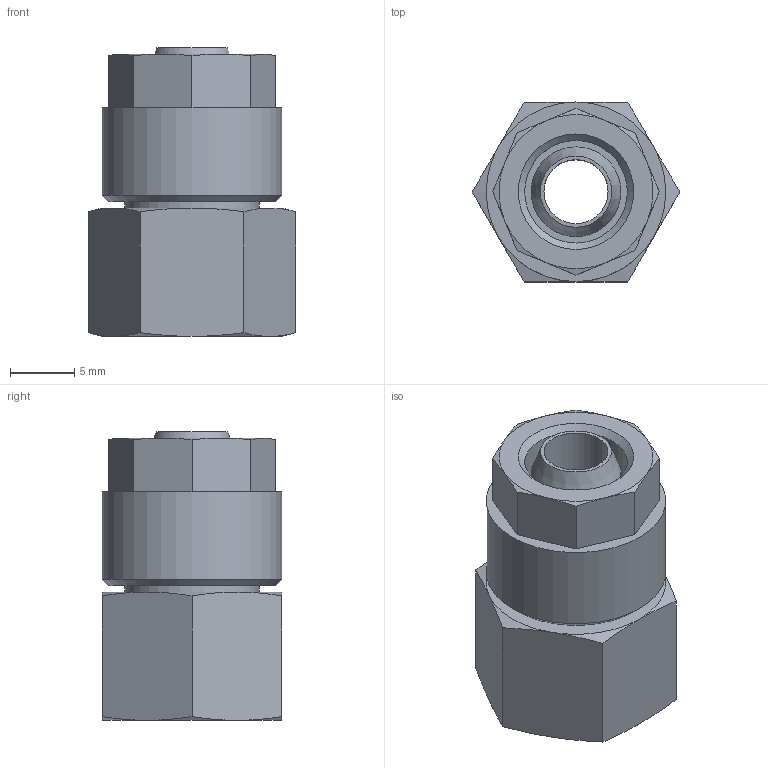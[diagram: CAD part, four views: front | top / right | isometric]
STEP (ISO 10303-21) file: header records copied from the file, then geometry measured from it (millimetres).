
FILE_DESCRIPTION(/* description */ (''),/* implementation_level */ '2;1');
FILE_NAME(/* name */ '10305_302_86_G18_31.08.16',/* time_stamp */ '2016-08-31T09:34:57+02:00',/* author */ (''),/* organization */ (''),/* preprocessor_version */ 'ST-DEVELOPER v16.5',/* originating_system */ 'HiCAD 2016 2101.0 Build 254',/* authorisation */ '');
FILE_SCHEMA (('AUTOMOTIVE_DESIGN { 1 0 10303 214 1 1 1 1 }'));
Length unit declared in the file: millimetre
Products named in the file (3): Root; 10305s; 17006
Assembly tree (2 placements, depth 2):
  Root
    10305s
    17006
Bounding box: 16.17 x 14 x 22.5 mm (x, y, z)
Volume: 2580.1 mm3; surface area: 2594.9 mm2
Topology: 2 solids, 2 shells, 61 faces, 131 edges, 80 vertices
Faces by surface type: cone 29, plane 23, cylinder 8, torus 1
Full cylindrical faces by diameter (mm): 5 x1, 6.5 x1, 8 x1, 8.566 x1, 10.5 x1, 10.773 x1, 12 x1, 14 x1
Entity records: 2665 total; most frequent: DIRECTION 322, CARTESIAN_POINT 246, PRESENTATION_STYLE_ASSIGNMENT 216, COLOUR_RGB 215, DRAUGHTING_PRE_DEFINED_CURVE_FONT 214, CURVE_STYLE 214, OVER_RIDING_STYLED_ITEM 214, ORIENTED_EDGE 214
